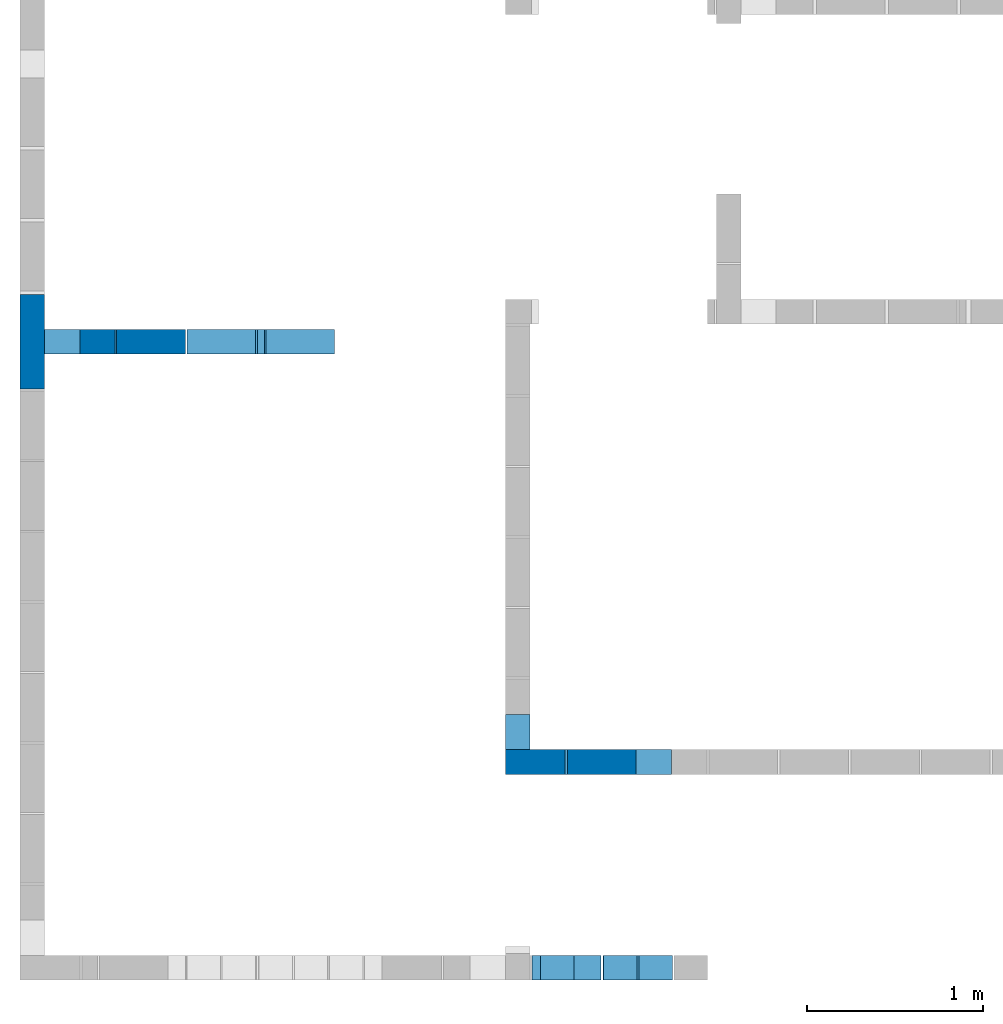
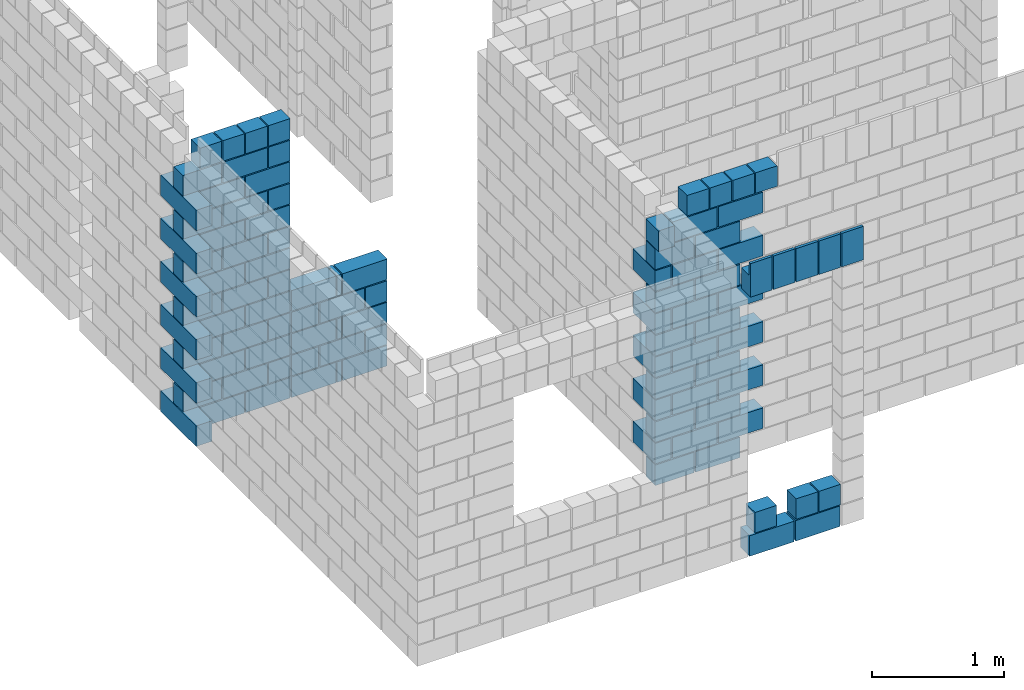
# One storey, part 3 of 12: 8 walls.
"""IFC4 building model written with IfcOpenShell, lengths in centimetres."""

from ifc_helpers import new_model, si_unit, derived_unit, frame, origin, origin_with_axes, origin_2d_with_axis, place, context, project, spatial, rectangle, extrude, element, save


model = new_model("IFC4")

# Units and contexts
model_context = context("Model", 3, precision=1e-05, world=origin_with_axes(), identifier="Body")
ifc_project = project(units=[si_unit("LENGTHUNIT", "METRE", prefix="CENTI"), si_unit("VOLUMEUNIT", "CUBIC_METRE"), si_unit("AREAUNIT", "SQUARE_METRE"), si_unit("POWERUNIT", "WATT"), si_unit("LUMINOUSFLUXUNIT", "LUMEN"), si_unit("ELECTRICCURRENTUNIT", "AMPERE"), si_unit("PRESSUREUNIT", "PASCAL", prefix="KILO"), si_unit("MASSUNIT", "GRAM", prefix="KILO"), si_unit("PLANEANGLEUNIT", "RADIAN"), derived_unit("VOLUMETRICFLOWRATEUNIT", [(si_unit("LENGTHUNIT", "METRE"), 3), (si_unit("TIMEUNIT", "SECOND"), -1)])], contexts=[model_context])

# Site, building, storey
site_placement = place(None, origin_with_axes())
site = spatial("IfcSite", under=ifc_project, at=site_placement)
building_placement = place(site_placement, origin())
building = spatial("IfcBuilding", under=site, at=building_placement)
storey_placement = place(building_placement, origin_with_axes())
storey = spatial("IfcBuildingStorey", under=building, at=storey_placement, Name="PISO", CompositionType="ELEMENT", Elevation=0.0)

# Walls
wall_1_placement = place(storey_placement, frame((18.0, 364.01, 239.0), z_axis=(0.0, 0.0, 1.0), x_axis=(1.0, 0.0, 0.0)))
element("IfcWall", 1, at=wall_1_placement, inside=storey, context=model_context, shape_type="SolidModel", body=[
    extrude(rectangle(XDim=54.0, YDim=14.0, at=origin_2d_with_axis()), frame((-10.0, 0.0, -239.0), z_axis=(0.0, 0.0, 1.0), x_axis=(0.0, 1.0, 0.0)), (0.0, 0.0, 1.0), 19.0),
    extrude(rectangle(XDim=34.0, YDim=14.0, at=origin_2d_with_axis()), frame((0.0, 0.0, -219.0), z_axis=(0.0, 0.0, 1.0), x_axis=(1.0, 0.0, 0.0)), (0.0, 0.0, 1.0), 19.0),
    extrude(rectangle(XDim=54.0, YDim=14.0, at=origin_2d_with_axis()), frame((-10.0, 0.0, -199.0), z_axis=(0.0, 0.0, 1.0), x_axis=(0.0, 1.0, 0.0)), (0.0, 0.0, 1.0), 19.0),
    extrude(rectangle(XDim=34.0, YDim=14.0, at=origin_2d_with_axis()), frame((0.0, 0.0, -179.0), z_axis=(0.0, 0.0, 1.0), x_axis=(1.0, 0.0, 0.0)), (0.0, 0.0, 1.0), 19.0),
    extrude(rectangle(XDim=54.0, YDim=14.0, at=origin_2d_with_axis()), frame((-10.0, 0.0, -159.0), z_axis=(0.0, 0.0, 1.0), x_axis=(0.0, 1.0, 0.0)), (0.0, 0.0, 1.0), 19.0),
    extrude(rectangle(XDim=34.0, YDim=14.0, at=origin_2d_with_axis()), frame((0.0, 0.0, -139.0), z_axis=(0.0, 0.0, 1.0), x_axis=(1.0, 0.0, 0.0)), (0.0, 0.0, 1.0), 19.0),
    extrude(rectangle(XDim=54.0, YDim=14.0, at=origin_2d_with_axis()), frame((-10.0, 0.0, -119.0), z_axis=(0.0, 0.0, 1.0), x_axis=(0.0, 1.0, 0.0)), (0.0, 0.0, 1.0), 19.0),
    extrude(rectangle(XDim=34.0, YDim=14.0, at=origin_2d_with_axis()), frame((0.0, 0.0, -99.0), z_axis=(0.0, 0.0, 1.0), x_axis=(1.0, 0.0, 0.0)), (0.0, 0.0, 1.0), 19.0),
    extrude(rectangle(XDim=54.0, YDim=14.0, at=origin_2d_with_axis()), frame((-10.0, 0.0, -79.0), z_axis=(0.0, 0.0, 1.0), x_axis=(0.0, 1.0, 0.0)), (0.0, 0.0, 1.0), 19.0),
    extrude(rectangle(XDim=34.0, YDim=14.0, at=origin_2d_with_axis()), frame((0.0, 0.0, -59.0), z_axis=(0.0, 0.0, 1.0), x_axis=(1.0, 0.0, 0.0)), (0.0, 0.0, 1.0), 19.0),
    extrude(rectangle(XDim=54.0, YDim=14.0, at=origin_2d_with_axis()), frame((-10.0, 0.0, -39.0), z_axis=(0.0, 0.0, 1.0), x_axis=(0.0, 1.0, 0.0)), (0.0, 0.0, 1.0), 19.0),
    extrude(rectangle(XDim=34.0, YDim=14.0, at=origin_2d_with_axis()), frame((0.0, 0.0, -19.0), z_axis=(0.0, 0.0, 1.0), x_axis=(1.0, 0.0, 0.0)), (0.0, 0.0, 1.0), 19.0),
])
wall_2_placement = place(storey_placement, frame((75.5, 364.01, 239.0), z_axis=(0.0, 0.0, 1.0), x_axis=(1.0, 0.0, 0.0)))
element("IfcWall", 2, at=wall_2_placement, inside=storey, context=model_context, shape_type="SolidModel", body=[
    extrude(rectangle(XDim=39.0, YDim=14.0, at=origin_2d_with_axis()), frame((0.0, 0.0, -239.0), z_axis=(0.0, 0.0, 1.0), x_axis=(-1.0, 0.0, 0.0)), (0.0, 0.0, 1.0), 19.0),
    extrude(rectangle(XDim=19.0, YDim=14.0, at=origin_2d_with_axis()), frame((10.0, 0.0, -219.0), z_axis=(0.0, 0.0, 1.0), x_axis=(-1.0, 0.0, 0.0)), (0.0, 0.0, 1.0), 19.0),
    extrude(rectangle(XDim=39.0, YDim=14.0, at=origin_2d_with_axis()), frame((0.0, 0.0, -199.0), z_axis=(0.0, 0.0, 1.0), x_axis=(-1.0, 0.0, 0.0)), (0.0, 0.0, 1.0), 19.0),
    extrude(rectangle(XDim=19.0, YDim=14.0, at=origin_2d_with_axis()), frame((10.0, 0.0, -179.0), z_axis=(0.0, 0.0, 1.0), x_axis=(-1.0, 0.0, 0.0)), (0.0, 0.0, 1.0), 19.0),
    extrude(rectangle(XDim=39.0, YDim=14.0, at=origin_2d_with_axis()), frame((0.0, 0.0, -159.0), z_axis=(0.0, 0.0, 1.0), x_axis=(-1.0, 0.0, 0.0)), (0.0, 0.0, 1.0), 19.0),
    extrude(rectangle(XDim=19.0, YDim=14.0, at=origin_2d_with_axis()), frame((10.0, 0.0, -139.0), z_axis=(0.0, 0.0, 1.0), x_axis=(-1.0, 0.0, 0.0)), (0.0, 0.0, 1.0), 19.0),
    extrude(rectangle(XDim=39.0, YDim=14.0, at=origin_2d_with_axis()), frame((0.0, 0.0, -119.0), z_axis=(0.0, 0.0, 1.0), x_axis=(-1.0, 0.0, 0.0)), (0.0, 0.0, 1.0), 19.0),
    extrude(rectangle(XDim=19.0, YDim=14.0, at=origin_2d_with_axis()), frame((10.0, 0.0, -99.0), z_axis=(0.0, 0.0, 1.0), x_axis=(-1.0, 0.0, 0.0)), (0.0, 0.0, 1.0), 19.0),
    extrude(rectangle(XDim=39.0, YDim=14.0, at=origin_2d_with_axis()), frame((0.0, 0.0, -79.0), z_axis=(0.0, 0.0, 1.0), x_axis=(-1.0, 0.0, 0.0)), (0.0, 0.0, 1.0), 19.0),
    extrude(rectangle(XDim=19.0, YDim=14.0, at=origin_2d_with_axis()), frame((10.0, 0.0, -59.0), z_axis=(0.0, 0.0, 1.0), x_axis=(-1.0, 0.0, 0.0)), (0.0, 0.0, 1.0), 19.0),
    extrude(rectangle(XDim=39.0, YDim=14.0, at=origin_2d_with_axis()), frame((0.0, 0.0, -39.0), z_axis=(0.0, 0.0, 1.0), x_axis=(-1.0, 0.0, 0.0)), (0.0, 0.0, 1.0), 19.0),
    extrude(rectangle(XDim=19.0, YDim=14.0, at=origin_2d_with_axis()), frame((10.0, 0.0, -19.0), z_axis=(0.0, 0.0, 1.0), x_axis=(-1.0, 0.0, 0.0)), (0.0, 0.0, 1.0), 19.0),
])
wall_3_placement = place(storey_placement, frame((294.0, 132.5, 239.0), z_axis=(0.0, 0.0, 1.0), x_axis=(1.0, 0.0, 0.0)))
element("IfcWall", 3, at=wall_3_placement, inside=storey, context=model_context, shape_type="SolidModel", body=[
    extrude(rectangle(XDim=34.0, YDim=14.0, at=origin_2d_with_axis()), frame((0.0, -7.5, -239.0), z_axis=(0.0, 0.0, 1.0), x_axis=(1.0, 0.0, 0.0)), (0.0, 0.0, 1.0), 19.0),
    extrude(rectangle(XDim=34.0, YDim=14.0, at=origin_2d_with_axis()), frame((-10.0, 2.5, -219.0), z_axis=(0.0, 0.0, 1.0), x_axis=(0.0, 1.0, 0.0)), (0.0, 0.0, 1.0), 19.0),
    extrude(rectangle(XDim=34.0, YDim=14.0, at=origin_2d_with_axis()), frame((0.0, -7.5, -199.0), z_axis=(0.0, 0.0, 1.0), x_axis=(1.0, 0.0, 0.0)), (0.0, 0.0, 1.0), 19.0),
    extrude(rectangle(XDim=34.0, YDim=14.0, at=origin_2d_with_axis()), frame((-10.0, 2.5, -179.0), z_axis=(0.0, 0.0, 1.0), x_axis=(0.0, 1.0, 0.0)), (0.0, 0.0, 1.0), 19.0),
    extrude(rectangle(XDim=34.0, YDim=14.0, at=origin_2d_with_axis()), frame((0.0, -7.5, -159.0), z_axis=(0.0, 0.0, 1.0), x_axis=(1.0, 0.0, 0.0)), (0.0, 0.0, 1.0), 19.0),
    extrude(rectangle(XDim=34.0, YDim=14.0, at=origin_2d_with_axis()), frame((-10.0, 2.5, -139.0), z_axis=(0.0, 0.0, 1.0), x_axis=(0.0, 1.0, 0.0)), (0.0, 0.0, 1.0), 19.0),
    extrude(rectangle(XDim=34.0, YDim=14.0, at=origin_2d_with_axis()), frame((0.0, -7.5, -119.0), z_axis=(0.0, 0.0, 1.0), x_axis=(1.0, 0.0, 0.0)), (0.0, 0.0, 1.0), 19.0),
    extrude(rectangle(XDim=34.0, YDim=14.0, at=origin_2d_with_axis()), frame((-10.0, 2.5, -99.0), z_axis=(0.0, 0.0, 1.0), x_axis=(0.0, 1.0, 0.0)), (0.0, 0.0, 1.0), 19.0),
    extrude(rectangle(XDim=34.0, YDim=14.0, at=origin_2d_with_axis()), frame((0.0, -7.5, -79.0), z_axis=(0.0, 0.0, 1.0), x_axis=(1.0, 0.0, 0.0)), (0.0, 0.0, 1.0), 19.0),
    extrude(rectangle(XDim=34.0, YDim=14.0, at=origin_2d_with_axis()), frame((-10.0, 2.5, -59.0), z_axis=(0.0, 0.0, 1.0), x_axis=(0.0, 1.0, 0.0)), (0.0, 0.0, 1.0), 19.0),
    extrude(rectangle(XDim=34.0, YDim=14.0, at=origin_2d_with_axis()), frame((0.0, -7.5, -39.0), z_axis=(0.0, 0.0, 1.0), x_axis=(1.0, 0.0, 0.0)), (0.0, 0.0, 1.0), 19.0),
    extrude(rectangle(XDim=19.0, YDim=14.0, at=origin_2d_with_axis()), frame((-10.0, -10.0, -19.0), z_axis=(0.0, 0.0, 1.0), x_axis=(0.0, -1.0, 0.0)), (0.0, 0.0, 1.0), 19.0),
])
wall_4_placement = place(storey_placement, frame((160.50274609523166, 364.01, 99.0), z_axis=(0.0, 0.0, 1.0), x_axis=(1.0, 0.0, 0.0)))
element("IfcWall", 4, at=wall_4_placement, inside=storey, context=model_context, shape_type="SolidModel", body=[
    extrude(rectangle(XDim=39.0, YDim=14.0, at=origin_2d_with_axis()), frame((0.0, 0.0, -99.0), z_axis=(0.0, 0.0, 1.0), x_axis=(-1.0, 0.0, 0.0)), (0.0, 0.0, 1.0), 19.0),
    extrude(rectangle(XDim=19.0, YDim=14.0, at=origin_2d_with_axis()), frame((10.0, 0.0, -79.0), z_axis=(0.0, 0.0, 1.0), x_axis=(-1.0, 0.0, 0.0)), (0.0, 0.0, 1.0), 19.0),
    extrude(rectangle(XDim=39.0, YDim=14.0, at=origin_2d_with_axis()), frame((0.0, 0.0, -59.0), z_axis=(0.0, 0.0, 1.0), x_axis=(-1.0, 0.0, 0.0)), (0.0, 0.0, 1.0), 19.0),
    extrude(rectangle(XDim=19.0, YDim=14.0, at=origin_2d_with_axis()), frame((10.0, 0.0, -39.0), z_axis=(0.0, 0.0, 1.0), x_axis=(-1.0, 0.0, 0.0)), (0.0, 0.0, 1.0), 19.0),
    extrude(rectangle(XDim=39.0, YDim=14.0, at=origin_2d_with_axis()), frame((0.0, 0.0, -19.0), z_axis=(0.0, 0.0, 1.0), x_axis=(-1.0, 0.0, 0.0)), (0.0, 0.0, 1.0), 19.0),
])
wall_5_placement = place(storey_placement, frame((342.1733333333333, 8.0, 271.0), z_axis=(0.0, 0.0, 1.0), x_axis=(1.0, 0.0, 0.0)))
element("IfcWall", 5, at=wall_5_placement, inside=storey, Name="PAR-PISO-10", context=model_context, shape_type="SolidModel", body=[
    extrude(rectangle(XDim=39.0, YDim=14.0, at=origin_2d_with_axis()), frame((10.0, 0.0, -271.0), z_axis=(0.0, 0.0, 1.0), x_axis=(-1.0, 0.0, 0.0)), (0.0, 0.0, 1.0), 19.0),
    extrude(rectangle(XDim=39.0, YDim=14.0, at=origin_2d_with_axis()), frame((-30.336666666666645, 0.0, -271.0), z_axis=(0.0, 0.0, 1.0), x_axis=(-1.0, 0.0, 0.0)), (0.0, 0.0, 1.0), 19.0),
    extrude(rectangle(XDim=19.0, YDim=14.0, at=origin_2d_with_axis()), frame((20.3366666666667, 0.0, -251.0), z_axis=(0.0, 0.0, 1.0), x_axis=(-1.0, 0.0, 0.0)), (0.0, 0.0, 1.0), 19.0),
    extrude(rectangle(XDim=19.0, YDim=14.0, at=origin_2d_with_axis()), frame((0.336666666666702, 0.0, -251.0), z_axis=(0.0, 0.0, 1.0), x_axis=(-1.0, 0.0, 0.0)), (0.0, 0.0, 1.0), 19.0),
    extrude(rectangle(XDim=19.0, YDim=14.0, at=origin_2d_with_axis()), frame((-35.67333333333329, 0.0, -251.0), z_axis=(0.0, 0.0, 1.0), x_axis=(-1.0, 0.0, 0.0)), (0.0, 0.0, 1.0), 19.0),
    extrude(rectangle(XDim=19.0, YDim=2.5, at=origin_2d_with_axis()), frame((40.3366666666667, -5.75, -12.0), z_axis=(0.0, 0.0, 1.0), x_axis=(-1.0, 0.0, 0.0)), (0.0, 0.0, 1.0), 12.0),
    extrude(rectangle(XDim=19.0, YDim=14.0, at=origin_2d_with_axis()), frame((40.3366666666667, 0.0, -31.0), z_axis=(0.0, 0.0, 1.0), x_axis=(-1.0, 0.0, 0.0)), (0.0, 0.0, 1.0), 19.0),
    extrude(rectangle(XDim=19.0, YDim=2.5, at=origin_2d_with_axis()), frame((20.3366666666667, -5.75, -12.0), z_axis=(0.0, 0.0, 1.0), x_axis=(-1.0, 0.0, 0.0)), (0.0, 0.0, 1.0), 12.0),
    extrude(rectangle(XDim=19.0, YDim=14.0, at=origin_2d_with_axis()), frame((20.3366666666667, 0.0, -31.0), z_axis=(0.0, 0.0, 1.0), x_axis=(-1.0, 0.0, 0.0)), (0.0, 0.0, 1.0), 19.0),
    extrude(rectangle(XDim=19.0, YDim=2.5, at=origin_2d_with_axis()), frame((0.336666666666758, -5.75, -12.0), z_axis=(0.0, 0.0, 1.0), x_axis=(-1.0, 0.0, 0.0)), (0.0, 0.0, 1.0), 12.0),
    extrude(rectangle(XDim=19.0, YDim=14.0, at=origin_2d_with_axis()), frame((0.336666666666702, 0.0, -31.0), z_axis=(0.0, 0.0, 1.0), x_axis=(-1.0, 0.0, 0.0)), (0.0, 0.0, 1.0), 19.0),
    extrude(rectangle(XDim=19.0, YDim=2.5, at=origin_2d_with_axis()), frame((-19.66333333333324, -5.75, -12.0), z_axis=(0.0, 0.0, 1.0), x_axis=(-1.0, 0.0, 0.0)), (0.0, 0.0, 1.0), 12.0),
    extrude(rectangle(XDim=19.0, YDim=14.0, at=origin_2d_with_axis()), frame((-19.6633333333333, 0.0, -31.0), z_axis=(0.0, 0.0, 1.0), x_axis=(-1.0, 0.0, 0.0)), (0.0, 0.0, 1.0), 19.0),
    extrude(rectangle(XDim=19.0, YDim=2.5, at=origin_2d_with_axis()), frame((-39.66333333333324, -5.75, -12.0), z_axis=(0.0, 0.0, 1.0), x_axis=(-1.0, 0.0, 0.0)), (0.0, 0.0, 1.0), 12.0),
    extrude(rectangle(XDim=19.0, YDim=14.0, at=origin_2d_with_axis()), frame((-39.6633333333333, 0.0, -31.0), z_axis=(0.0, 0.0, 1.0), x_axis=(-1.0, 0.0, 0.0)), (0.0, 0.0, 1.0), 19.0),
])
wall_6_placement = place(storey_placement, frame((55.5, 364.01, 259.0), z_axis=(0.0, 0.0, 1.0), x_axis=(1.0, 0.0, 0.0)))
element("IfcWall", 6, at=wall_6_placement, inside=storey, Name="PAR-PISO-7", context=model_context, shape_type="SolidModel", body=[
    extrude(rectangle(XDim=39.0, YDim=14.0, at=origin_2d_with_axis()), frame((-20.0, 0.0, -259.0), z_axis=(0.0, 0.0, 1.0), x_axis=(1.0, 0.0, 0.0)), (0.0, 0.0, 1.0), 19.0),
    extrude(rectangle(XDim=39.0, YDim=14.0, at=origin_2d_with_axis()), frame((0.0, 0.0, -239.0), z_axis=(0.0, 0.0, 1.0), x_axis=(1.0, 0.0, 0.0)), (0.0, 0.0, 1.0), 19.0),
    extrude(rectangle(XDim=39.0, YDim=14.0, at=origin_2d_with_axis()), frame((-20.0, 0.0, -219.0), z_axis=(0.0, 0.0, 1.0), x_axis=(1.0, 0.0, 0.0)), (0.0, 0.0, 1.0), 19.0),
    extrude(rectangle(XDim=39.0, YDim=14.0, at=origin_2d_with_axis()), frame((0.0, 0.0, -199.0), z_axis=(0.0, 0.0, 1.0), x_axis=(1.0, 0.0, 0.0)), (0.0, 0.0, 1.0), 19.0),
    extrude(rectangle(XDim=39.0, YDim=14.0, at=origin_2d_with_axis()), frame((-20.0, 0.0, -179.0), z_axis=(0.0, 0.0, 1.0), x_axis=(1.0, 0.0, 0.0)), (0.0, 0.0, 1.0), 19.0),
    extrude(rectangle(XDim=39.0, YDim=14.0, at=origin_2d_with_axis()), frame((0.0, 0.0, -159.0), z_axis=(0.0, 0.0, 1.0), x_axis=(1.0, 0.0, 0.0)), (0.0, 0.0, 1.0), 19.0),
    extrude(rectangle(XDim=39.0, YDim=14.0, at=origin_2d_with_axis()), frame((-20.0, 0.0, -139.0), z_axis=(0.0, 0.0, 1.0), x_axis=(1.0, 0.0, 0.0)), (0.0, 0.0, 1.0), 19.0),
    extrude(rectangle(XDim=39.0, YDim=14.0, at=origin_2d_with_axis()), frame((0.0, 0.0, -119.0), z_axis=(0.0, 0.0, 1.0), x_axis=(1.0, 0.0, 0.0)), (0.0, 0.0, 1.0), 19.0),
    extrude(rectangle(XDim=39.0, YDim=14.0, at=origin_2d_with_axis()), frame((-20.0, 0.0, -99.0), z_axis=(0.0, 0.0, 1.0), x_axis=(1.0, 0.0, 0.0)), (0.0, 0.0, 1.0), 19.0),
    extrude(rectangle(XDim=39.0, YDim=14.0, at=origin_2d_with_axis()), frame((0.0, 0.0, -79.0), z_axis=(0.0, 0.0, 1.0), x_axis=(1.0, 0.0, 0.0)), (0.0, 0.0, 1.0), 19.0),
    extrude(rectangle(XDim=39.0, YDim=14.0, at=origin_2d_with_axis()), frame((-20.0, 0.0, -59.0), z_axis=(0.0, 0.0, 1.0), x_axis=(1.0, 0.0, 0.0)), (0.0, 0.0, 1.0), 19.0),
    extrude(rectangle(XDim=39.0, YDim=14.0, at=origin_2d_with_axis()), frame((0.0, 0.0, -39.0), z_axis=(0.0, 0.0, 1.0), x_axis=(1.0, 0.0, 0.0)), (0.0, 0.0, 1.0), 19.0),
    extrude(rectangle(XDim=19.0, YDim=14.0, at=origin_2d_with_axis()), frame((-30.0, 0.0, -19.0), z_axis=(0.0, 0.0, 1.0), x_axis=(1.0, 0.0, 0.0)), (0.0, 0.0, 1.0), 19.0),
    extrude(rectangle(XDim=19.0, YDim=14.0, at=origin_2d_with_axis()), frame((-10.0, 0.0, -19.0), z_axis=(0.0, 0.0, 1.0), x_axis=(1.0, 0.0, 0.0)), (0.0, 0.0, 1.0), 19.0),
    extrude(rectangle(XDim=19.0, YDim=14.0, at=origin_2d_with_axis()), frame((10.0, 0.0, -19.0), z_axis=(0.0, 0.0, 1.0), x_axis=(1.0, 0.0, 0.0)), (0.0, 0.0, 1.0), 19.0),
    extrude(rectangle(XDim=19.0, YDim=14.0, at=origin_2d_with_axis()), frame((30.0, 0.0, -19.0), z_axis=(0.0, 0.0, 1.0), x_axis=(1.0, 0.0, 0.0)), (0.0, 0.0, 1.0), 19.0),
])
wall_7_placement = place(storey_placement, frame((128.00137304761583, 364.01, 99.0), z_axis=(0.0, 0.0, 1.0), x_axis=(1.0, 0.0, 0.0)))
element("IfcWall", 7, at=wall_7_placement, inside=storey, Name="PAR-PISO-8", context=model_context, shape_type="SolidModel", body=[
    extrude(rectangle(XDim=39.0, YDim=14.0, at=origin_2d_with_axis()), frame((-12.501373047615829, 0.0, -99.0), z_axis=(0.0, 0.0, 1.0), x_axis=(1.0, 0.0, 0.0)), (0.0, 0.0, 1.0), 19.0),
    extrude(rectangle(XDim=4.0, YDim=14.0, at=origin_2d_with_axis()), frame((9.998626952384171, 0.0, -99.0), z_axis=(0.0, 0.0, 1.0), x_axis=(1.0, 0.0, 0.0)), (0.0, 0.0, 1.0), 19.0),
    extrude(rectangle(XDim=24.0, YDim=14.0, at=origin_2d_with_axis()), frame((-20.001373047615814, 0.0, -79.0), z_axis=(0.0, 0.0, 1.0), x_axis=(1.0, 0.0, 0.0)), (0.0, 0.0, 1.0), 19.0),
    extrude(rectangle(XDim=39.0, YDim=14.0, at=origin_2d_with_axis()), frame((12.501373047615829, 0.0, -79.0), z_axis=(0.0, 0.0, 1.0), x_axis=(1.0, 0.0, 0.0)), (0.0, 0.0, 1.0), 19.0),
    extrude(rectangle(XDim=39.0, YDim=14.0, at=origin_2d_with_axis()), frame((-12.501373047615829, 0.0, -59.0), z_axis=(0.0, 0.0, 1.0), x_axis=(1.0, 0.0, 0.0)), (0.0, 0.0, 1.0), 19.0),
    extrude(rectangle(XDim=4.0, YDim=14.0, at=origin_2d_with_axis()), frame((9.998626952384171, 0.0, -59.0), z_axis=(0.0, 0.0, 1.0), x_axis=(1.0, 0.0, 0.0)), (0.0, 0.0, 1.0), 19.0),
    extrude(rectangle(XDim=24.0, YDim=14.0, at=origin_2d_with_axis()), frame((-20.001373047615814, 0.0, -39.0), z_axis=(0.0, 0.0, 1.0), x_axis=(1.0, 0.0, 0.0)), (0.0, 0.0, 1.0), 19.0),
    extrude(rectangle(XDim=39.0, YDim=14.0, at=origin_2d_with_axis()), frame((12.501373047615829, 0.0, -39.0), z_axis=(0.0, 0.0, 1.0), x_axis=(1.0, 0.0, 0.0)), (0.0, 0.0, 1.0), 19.0),
    extrude(rectangle(XDim=39.0, YDim=14.0, at=origin_2d_with_axis()), frame((-12.501373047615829, 0.0, -19.0), z_axis=(0.0, 0.0, 1.0), x_axis=(1.0, 0.0, 0.0)), (0.0, 0.0, 1.0), 19.0),
    extrude(rectangle(XDim=4.0, YDim=14.0, at=origin_2d_with_axis()), frame((9.998626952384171, 0.0, -19.0), z_axis=(0.0, 0.0, 1.0), x_axis=(1.0, 0.0, 0.0)), (0.0, 0.0, 1.0), 19.0),
])
wall_8_placement = place(storey_placement, frame((338.14181818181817, 125.0, 259.0), z_axis=(0.0, 0.0, 1.0), x_axis=(1.0, 0.0, 0.0)))
element("IfcWall", 8, at=wall_8_placement, inside=storey, Name="PAR-PISO-9", context=model_context, shape_type="SolidModel", body=[
    extrude(rectangle(XDim=39.0, YDim=14.0, at=origin_2d_with_axis()), frame((-6.340818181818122, 0.0, -259.0), z_axis=(0.0, 0.0, 1.0), x_axis=(-1.0, 0.0, 0.0)), (0.0, 0.0, 1.0), 19.0),
    extrude(rectangle(XDim=39.0, YDim=14.0, at=origin_2d_with_axis()), frame((13.905454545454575, 0.0, -239.0), z_axis=(0.0, 0.0, 1.0), x_axis=(-1.0, 0.0, 0.0)), (0.0, 0.0, 1.0), 19.0),
    extrude(rectangle(XDim=39.0, YDim=14.0, at=origin_2d_with_axis()), frame((-26.368181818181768, 0.0, -239.0), z_axis=(0.0, 0.0, 1.0), x_axis=(-1.0, 0.0, 0.0)), (0.0, 0.0, 1.0), 19.0),
    extrude(rectangle(XDim=39.0, YDim=14.0, at=origin_2d_with_axis()), frame((-6.340818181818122, 0.0, -219.0), z_axis=(0.0, 0.0, 1.0), x_axis=(-1.0, 0.0, 0.0)), (0.0, 0.0, 1.0), 19.0),
    extrude(rectangle(XDim=39.0, YDim=14.0, at=origin_2d_with_axis()), frame((13.905454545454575, 0.0, -199.0), z_axis=(0.0, 0.0, 1.0), x_axis=(-1.0, 0.0, 0.0)), (0.0, 0.0, 1.0), 19.0),
    extrude(rectangle(XDim=39.0, YDim=14.0, at=origin_2d_with_axis()), frame((-26.368181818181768, 0.0, -199.0), z_axis=(0.0, 0.0, 1.0), x_axis=(-1.0, 0.0, 0.0)), (0.0, 0.0, 1.0), 19.0),
    extrude(rectangle(XDim=39.0, YDim=14.0, at=origin_2d_with_axis()), frame((-6.340818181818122, 0.0, -179.0), z_axis=(0.0, 0.0, 1.0), x_axis=(-1.0, 0.0, 0.0)), (0.0, 0.0, 1.0), 19.0),
    extrude(rectangle(XDim=39.0, YDim=14.0, at=origin_2d_with_axis()), frame((13.905454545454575, 0.0, -159.0), z_axis=(0.0, 0.0, 1.0), x_axis=(-1.0, 0.0, 0.0)), (0.0, 0.0, 1.0), 19.0),
    extrude(rectangle(XDim=39.0, YDim=14.0, at=origin_2d_with_axis()), frame((-26.368181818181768, 0.0, -159.0), z_axis=(0.0, 0.0, 1.0), x_axis=(-1.0, 0.0, 0.0)), (0.0, 0.0, 1.0), 19.0),
    extrude(rectangle(XDim=39.0, YDim=14.0, at=origin_2d_with_axis()), frame((-6.340818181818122, 0.0, -139.0), z_axis=(0.0, 0.0, 1.0), x_axis=(-1.0, 0.0, 0.0)), (0.0, 0.0, 1.0), 19.0),
    extrude(rectangle(XDim=39.0, YDim=14.0, at=origin_2d_with_axis()), frame((13.905454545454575, 0.0, -119.0), z_axis=(0.0, 0.0, 1.0), x_axis=(-1.0, 0.0, 0.0)), (0.0, 0.0, 1.0), 19.0),
    extrude(rectangle(XDim=39.0, YDim=14.0, at=origin_2d_with_axis()), frame((-26.368181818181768, 0.0, -119.0), z_axis=(0.0, 0.0, 1.0), x_axis=(-1.0, 0.0, 0.0)), (0.0, 0.0, 1.0), 19.0),
    extrude(rectangle(XDim=39.0, YDim=14.0, at=origin_2d_with_axis()), frame((-6.340818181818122, 0.0, -99.0), z_axis=(0.0, 0.0, 1.0), x_axis=(-1.0, 0.0, 0.0)), (0.0, 0.0, 1.0), 19.0),
    extrude(rectangle(XDim=39.0, YDim=14.0, at=origin_2d_with_axis()), frame((13.905454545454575, 0.0, -79.0), z_axis=(0.0, 0.0, 1.0), x_axis=(-1.0, 0.0, 0.0)), (0.0, 0.0, 1.0), 19.0),
    extrude(rectangle(XDim=39.0, YDim=14.0, at=origin_2d_with_axis()), frame((-26.368181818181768, 0.0, -79.0), z_axis=(0.0, 0.0, 1.0), x_axis=(-1.0, 0.0, 0.0)), (0.0, 0.0, 1.0), 19.0),
    extrude(rectangle(XDim=39.0, YDim=14.0, at=origin_2d_with_axis()), frame((-6.340818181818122, 0.0, -59.0), z_axis=(0.0, 0.0, 1.0), x_axis=(-1.0, 0.0, 0.0)), (0.0, 0.0, 1.0), 19.0),
    extrude(rectangle(XDim=39.0, YDim=14.0, at=origin_2d_with_axis()), frame((13.905454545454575, 0.0, -39.0), z_axis=(0.0, 0.0, 1.0), x_axis=(-1.0, 0.0, 0.0)), (0.0, 0.0, 1.0), 19.0),
    extrude(rectangle(XDim=39.0, YDim=14.0, at=origin_2d_with_axis()), frame((-26.368181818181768, 0.0, -39.0), z_axis=(0.0, 0.0, 1.0), x_axis=(-1.0, 0.0, 0.0)), (0.0, 0.0, 1.0), 19.0),
    extrude(rectangle(XDim=19.0, YDim=14.0, at=origin_2d_with_axis()), frame((36.368181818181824, 0.0, -19.0), z_axis=(0.0, 0.0, 1.0), x_axis=(-1.0, 0.0, 0.0)), (0.0, 0.0, 1.0), 19.0),
    extrude(rectangle(XDim=19.0, YDim=14.0, at=origin_2d_with_axis()), frame((16.368181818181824, 0.0, -19.0), z_axis=(0.0, 0.0, 1.0), x_axis=(-1.0, 0.0, 0.0)), (0.0, 0.0, 1.0), 19.0),
    extrude(rectangle(XDim=19.0, YDim=14.0, at=origin_2d_with_axis()), frame((-3.631818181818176, 0.0, -19.0), z_axis=(0.0, 0.0, 1.0), x_axis=(-1.0, 0.0, 0.0)), (0.0, 0.0, 1.0), 19.0),
    extrude(rectangle(XDim=19.0, YDim=14.0, at=origin_2d_with_axis()), frame((-23.631818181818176, 0.0, -19.0), z_axis=(0.0, 0.0, 1.0), x_axis=(-1.0, 0.0, 0.0)), (0.0, 0.0, 1.0), 19.0),
])

save(model, "model.ifc")
